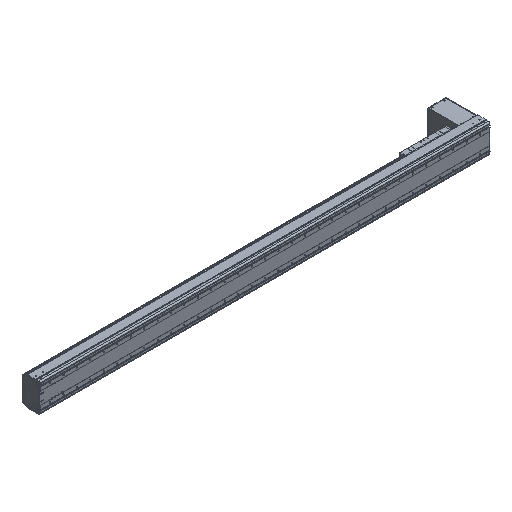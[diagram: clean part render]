
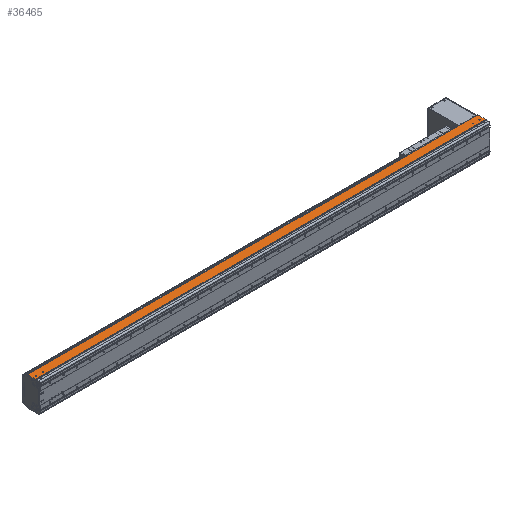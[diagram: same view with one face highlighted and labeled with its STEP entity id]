
A CAD part, isometric view. The second image highlights one B-rep face of the part: STEP entity #36465.
In plain terms, the highlighted planar face has unit normal (0, 0, 1).
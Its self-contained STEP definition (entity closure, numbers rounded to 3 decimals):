
#9678=DIRECTION('',(-1.,-0.006,-0.017));
#9679=VECTOR('',#9678,1.5);
#9680=CARTESIAN_POINT('',(1.5,94.,107.));
#9681=LINE('',#9680,#9679);
#9682=DIRECTION('',(-1.,0.,0.));
#9683=VECTOR('',#9682,3348.5);
#9684=CARTESIAN_POINT('',(0.,93.5,107.));
#9685=LINE('',#9684,#9683);
#9710=CARTESIAN_POINT('',(0.,93.992,
106.974));
#9711=CARTESIAN_POINT('',(0.,93.906,
106.974));
#9712=CARTESIAN_POINT('',(0.,93.75,
107.013));
#9713=CARTESIAN_POINT('',(0.,93.581,107.));
#9714=CARTESIAN_POINT('',(0.,93.5,107.));
#9716=CARTESIAN_POINT('',(-3323.5,54.,107.));
#9717=DIRECTION('',(0.,0.,-1.));
#9718=DIRECTION('',(1.,0.,0.));
#9719=AXIS2_PLACEMENT_3D('',#9716,#9717,#9718);
#9721=CARTESIAN_POINT('',(-3323.5,54.,107.));
#9722=DIRECTION('',(0.,0.,-1.));
#9723=DIRECTION('',(-1.,0.,0.));
#9724=AXIS2_PLACEMENT_3D('',#9721,#9722,#9723);
#9726=CARTESIAN_POINT('',(-3273.5,54.,107.));
#9727=DIRECTION('',(0.,0.,-1.));
#9728=DIRECTION('',(1.,0.,0.));
#9729=AXIS2_PLACEMENT_3D('',#9726,#9727,#9728);
#9731=CARTESIAN_POINT('',(-3273.5,54.,107.));
#9732=DIRECTION('',(0.,0.,-1.));
#9733=DIRECTION('',(-1.,0.,0.));
#9734=AXIS2_PLACEMENT_3D('',#9731,#9732,#9733);
#9736=CARTESIAN_POINT('',(-23.5,54.,107.));
#9737=DIRECTION('',(0.,0.,-1.));
#9738=DIRECTION('',(1.,0.,0.));
#9739=AXIS2_PLACEMENT_3D('',#9736,#9737,#9738);
#9741=CARTESIAN_POINT('',(-23.5,54.,107.));
#9742=DIRECTION('',(0.,0.,-1.));
#9743=DIRECTION('',(-1.,0.,0.));
#9744=AXIS2_PLACEMENT_3D('',#9741,#9742,#9743);
#9746=CARTESIAN_POINT('',(-73.5,54.,107.));
#9747=DIRECTION('',(0.,0.,-1.));
#9748=DIRECTION('',(1.,0.,0.));
#9749=AXIS2_PLACEMENT_3D('',#9746,#9747,#9748);
#9751=CARTESIAN_POINT('',(-73.5,54.,107.));
#9752=DIRECTION('',(0.,0.,-1.));
#9753=DIRECTION('',(-1.,0.,0.));
#9754=AXIS2_PLACEMENT_3D('',#9751,#9752,#9753);
#9756=DIRECTION('',(0.,-1.,0.));
#9757=VECTOR('',#9756,2.55);
#9758=CARTESIAN_POINT('',(-3346.5,34.65,107.));
#9759=LINE('',#9758,#9757);
#9760=DIRECTION('',(0.,-1.,0.));
#9761=VECTOR('',#9760,58.85);
#9762=CARTESIAN_POINT('',(-3348.5,93.5,107.));
#9763=LINE('',#9762,#9761);
#9764=DIRECTION('',(0.,1.,0.));
#9765=VECTOR('',#9764,58.35);
#9766=CARTESIAN_POINT('',(1.5,35.65,107.));
#9767=LINE('',#9766,#9765);
#9768=DIRECTION('',(0.,1.,0.));
#9769=VECTOR('',#9768,3.55);
#9770=CARTESIAN_POINT('',(0.,32.1,107.));
#9771=LINE('',#9770,#9769);
#9772=DIRECTION('',(1.,0.,0.));
#9773=VECTOR('',#9772,3346.5);
#9774=CARTESIAN_POINT('',(-3346.5,32.1,107.));
#9775=LINE('',#9774,#9773);
#9884=DIRECTION('',(1.,0.,0.));
#9885=VECTOR('',#9884,2.);
#9886=CARTESIAN_POINT('',(-3348.5,34.65,107.));
#9887=LINE('',#9886,#9885);
#9908=DIRECTION('',(1.,0.,0.));
#9909=VECTOR('',#9908,1.5);
#9910=CARTESIAN_POINT('',(0.,35.65,107.));
#9911=LINE('',#9910,#9909);
#20378=CARTESIAN_POINT('',(1.5,94.,107.));
#20379=VERTEX_POINT('',#20378);
#20380=CARTESIAN_POINT('',(1.5,35.65,107.));
#20381=VERTEX_POINT('',#20380);
#20450=CARTESIAN_POINT('',(-3348.5,34.65,107.));
#20451=VERTEX_POINT('',#20450);
#20452=CARTESIAN_POINT('',(-3348.5,93.5,107.));
#20453=VERTEX_POINT('',#20452);
#20678=CARTESIAN_POINT('',(-3346.5,32.1,107.));
#20679=VERTEX_POINT('',#20678);
#20729=CARTESIAN_POINT('',(0.,32.1,107.));
#20731=VERTEX_POINT('',#20729);
#21472=CARTESIAN_POINT('',(-3321.,54.,107.));
#21473=CARTESIAN_POINT('',(-3326.,54.,107.));
#21474=VERTEX_POINT('',#21472);
#21475=VERTEX_POINT('',#21473);
#21476=CARTESIAN_POINT('',(-3271.,54.,107.));
#21477=CARTESIAN_POINT('',(-3276.,54.,107.));
#21478=VERTEX_POINT('',#21476);
#21479=VERTEX_POINT('',#21477);
#21480=CARTESIAN_POINT('',(-21.,54.,107.));
#21481=CARTESIAN_POINT('',(-26.,54.,107.));
#21482=VERTEX_POINT('',#21480);
#21483=VERTEX_POINT('',#21481);
#21484=CARTESIAN_POINT('',(-71.,54.,107.));
#21485=CARTESIAN_POINT('',(-76.,54.,107.));
#21486=VERTEX_POINT('',#21484);
#21487=VERTEX_POINT('',#21485);
#24170=CARTESIAN_POINT('',(0.,35.65,107.));
#24171=VERTEX_POINT('',#24170);
#24304=VERTEX_POINT('',#9710);
#24305=VERTEX_POINT('',#9714);
#24761=CARTESIAN_POINT('',(-3346.5,34.65,107.));
#24762=VERTEX_POINT('',#24761);
#36421=CARTESIAN_POINT('',(-1673.25,62.8,107.));
#36422=DIRECTION('',(0.,0.,1.));
#36423=DIRECTION('',(0.,-1.,0.));
#36424=AXIS2_PLACEMENT_3D('',#36421,#36422,#36423);
#36425=PLANE('',#36424);
#36426=ORIENTED_EDGE('',*,*,#26590,.F.);
#36428=ORIENTED_EDGE('',*,*,#36427,.F.);
#36429=ORIENTED_EDGE('',*,*,#28876,.F.);
#36430=ORIENTED_EDGE('',*,*,#36407,.F.);
#36431=ORIENTED_EDGE('',*,*,#36416,.F.);
#36432=ORIENTED_EDGE('',*,*,#36397,.F.);
#36433=ORIENTED_EDGE('',*,*,#25518,.F.);
#36435=ORIENTED_EDGE('',*,*,#36434,.F.);
#36436=ORIENTED_EDGE('',*,*,#27347,.F.);
#36438=ORIENTED_EDGE('',*,*,#36437,.F.);
#36439=EDGE_LOOP('',(#36426,#36428,#36429,#36430,#36431,#36432,#36433,#36435,
#36436,#36438));
#36440=FACE_OUTER_BOUND('',#36439,.F.);
#36442=ORIENTED_EDGE('',*,*,#36441,.F.);
#36444=ORIENTED_EDGE('',*,*,#36443,.F.);
#36445=EDGE_LOOP('',(#36442,#36444));
#36446=FACE_BOUND('',#36445,.F.);
#36448=ORIENTED_EDGE('',*,*,#36447,.F.);
#36450=ORIENTED_EDGE('',*,*,#36449,.F.);
#36451=EDGE_LOOP('',(#36448,#36450));
#36452=FACE_BOUND('',#36451,.F.);
#36454=ORIENTED_EDGE('',*,*,#36453,.F.);
#36456=ORIENTED_EDGE('',*,*,#36455,.F.);
#36457=EDGE_LOOP('',(#36454,#36456));
#36458=FACE_BOUND('',#36457,.F.);
#36460=ORIENTED_EDGE('',*,*,#36459,.F.);
#36462=ORIENTED_EDGE('',*,*,#36461,.F.);
#36463=EDGE_LOOP('',(#36460,#36462));
#36464=FACE_BOUND('',#36463,.F.);
#36465=ADVANCED_FACE('',(#36440,#36446,#36452,#36458,#36464),#36425,.T.);
#9715=B_SPLINE_CURVE_WITH_KNOTS('',3,(#9710,#9711,#9712,#9713,#9714),
.UNSPECIFIED.,.F.,.F.,(4,1,4),(0.,0.5,1.),.UNSPECIFIED.);
#9720=CIRCLE('',#9719,2.5);
#9725=CIRCLE('',#9724,2.5);
#9730=CIRCLE('',#9729,2.5);
#9735=CIRCLE('',#9734,2.5);
#9740=CIRCLE('',#9739,2.5);
#9745=CIRCLE('',#9744,2.5);
#9750=CIRCLE('',#9749,2.5);
#9755=CIRCLE('',#9754,2.5);
#25518=EDGE_CURVE('',#20381,#20379,#9767,.T.);
#26590=EDGE_CURVE('',#24762,#20679,#9759,.T.);
#27347=EDGE_CURVE('',#20731,#24171,#9771,.T.);
#28876=EDGE_CURVE('',#20453,#20451,#9763,.T.);
#36397=EDGE_CURVE('',#20379,#24304,#9681,.T.);
#36407=EDGE_CURVE('',#24305,#20453,#9685,.T.);
#36416=EDGE_CURVE('',#24304,#24305,#9715,.T.);
#36427=EDGE_CURVE('',#20451,#24762,#9887,.T.);
#36434=EDGE_CURVE('',#24171,#20381,#9911,.T.);
#36437=EDGE_CURVE('',#20679,#20731,#9775,.T.);
#36441=EDGE_CURVE('',#21478,#21479,#9730,.T.);
#36443=EDGE_CURVE('',#21479,#21478,#9735,.T.);
#36447=EDGE_CURVE('',#21482,#21483,#9740,.T.);
#36449=EDGE_CURVE('',#21483,#21482,#9745,.T.);
#36453=EDGE_CURVE('',#21486,#21487,#9750,.T.);
#36455=EDGE_CURVE('',#21487,#21486,#9755,.T.);
#36459=EDGE_CURVE('',#21474,#21475,#9720,.T.);
#36461=EDGE_CURVE('',#21475,#21474,#9725,.T.);
